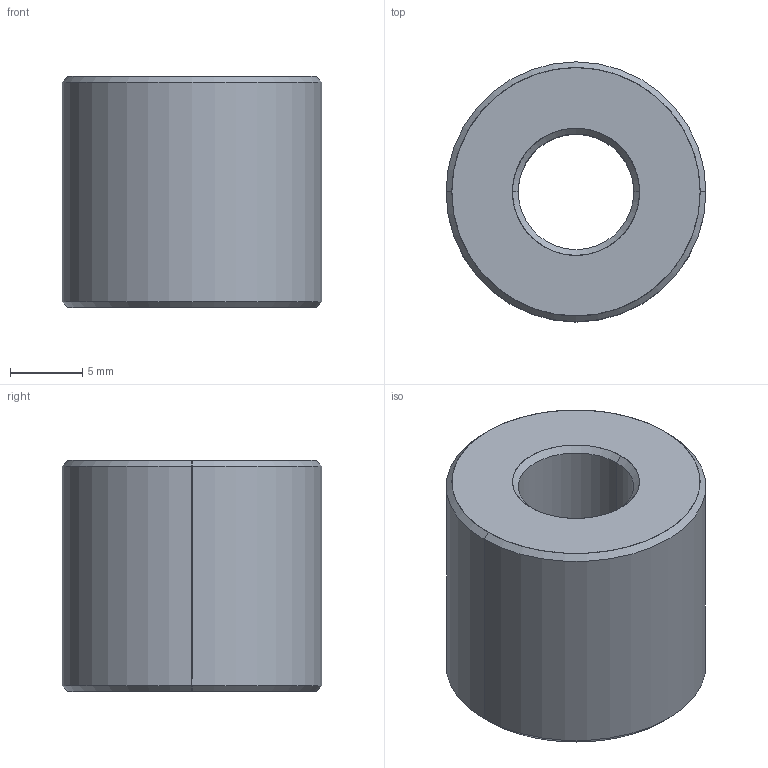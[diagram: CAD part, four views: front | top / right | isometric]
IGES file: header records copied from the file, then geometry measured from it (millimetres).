
Start section: SolidWorks IGES file using analytic representation for surfaces
Global section: file name: C:\Users\ianosborn\Desktop\L1330_v2\L1330_v2_20241024_IGES\L1330.R08-015.igs; native system: SolidWorks 2019; preprocessor: SolidWorks 2019; author: IanOsborn; date: 241024.102455; units: millimetre
Bounding box: 18 x 18 x 16 mm (x, y, z)
Surface area: 1677 mm2 (no closed solid volume)
Topology: 0 solids, 0 shells, 14 faces, 176 edges, 176 vertices
Faces by surface type: revolution 12, bspline 2
